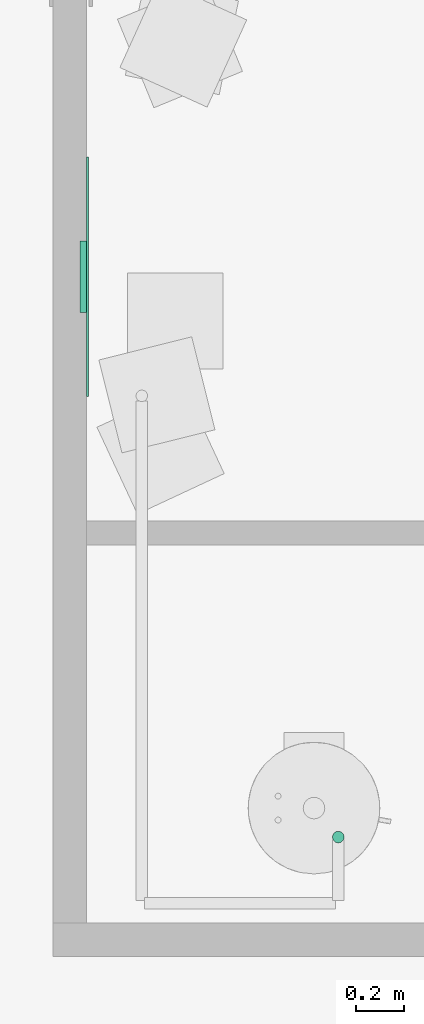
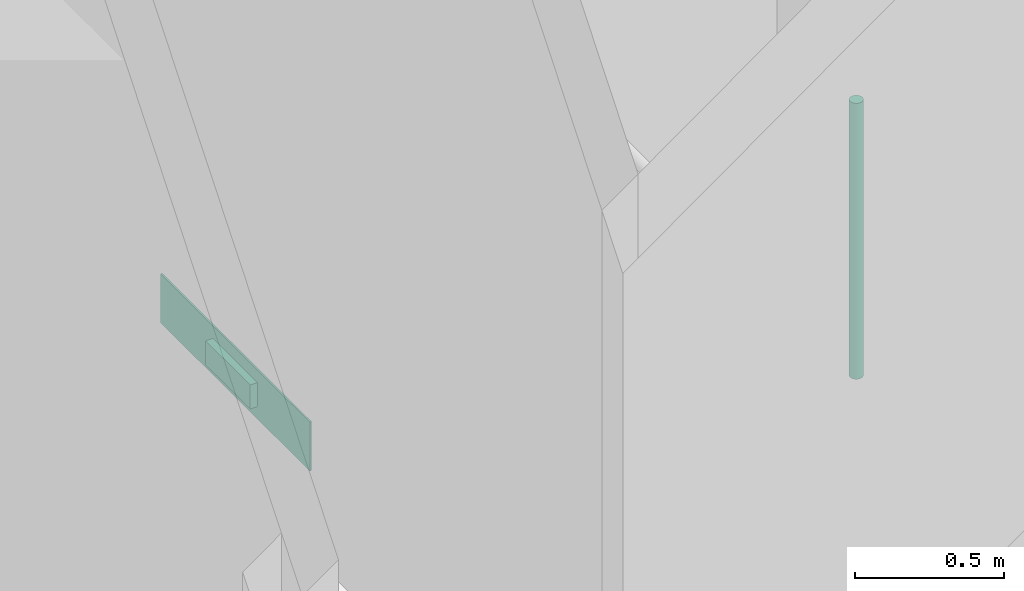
# One storey, part 24 of 69: 1 air terminal, 1 pipe segment.
"""IFC4 building model written with IfcOpenShell, lengths in centimetres."""

from ifc_helpers import new_model, entity, si_unit, converted_unit, derived_unit, direction, frame, origin, place, context, subcontext, project, spatial, arc, indexed_curve, outline, extrude, source, transform, mapped, material, constituent, constituent_set, type_object, type_shapes, element, save


model = new_model("IFC4")

# Units and contexts
model_context = context("Model", 3, precision=0.001, world=origin(), true_north=direction((6.123233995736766e-17, 1.0)))
body_context = subcontext(model_context, "Body", "Model", "MODEL_VIEW")
ifc_project = project(units=[si_unit("LENGTHUNIT", "METRE", prefix="CENTI"), si_unit("AREAUNIT", "SQUARE_METRE"), si_unit("VOLUMEUNIT", "CUBIC_METRE"), derived_unit("THERMALTRANSMITTANCEUNIT", [(si_unit("MASSUNIT", "GRAM", prefix="KILO"), 1), (si_unit("THERMODYNAMICTEMPERATUREUNIT", "KELVIN"), -1), (si_unit("TIMEUNIT", "SECOND"), -3)]), converted_unit("PLANEANGLEUNIT", "DEGREE", entity("IfcPlaneAngleMeasure", 0.017453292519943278), si_unit("PLANEANGLEUNIT", "RADIAN"), dimensions=[0, 0, 0, 0, 0, 0, 0]), derived_unit("MASSDENSITYUNIT", [(si_unit("MASSUNIT", "GRAM", prefix="KILO"), 1), (si_unit("LENGTHUNIT", "METRE"), -3)]), derived_unit("VAPORPERMEABILITYUNIT", [(si_unit("LENGTHUNIT", "METRE"), -1), (si_unit("TIMEUNIT", "SECOND"), 1)]), derived_unit("USERDEFINED", [(si_unit("MASSUNIT", "GRAM", prefix="KILO"), 1), (si_unit("TIMEUNIT", "SECOND"), -3), (si_unit("LENGTHUNIT", "METRE"), 3), (si_unit("ELECTRICCURRENTUNIT", "AMPERE"), -2)]), derived_unit("SPECIFICHEATCAPACITYUNIT", [(si_unit("THERMODYNAMICTEMPERATUREUNIT", "KELVIN"), -1), (si_unit("LENGTHUNIT", "METRE"), 2), (si_unit("TIMEUNIT", "SECOND"), -2)]), derived_unit("THERMALCONDUCTANCEUNIT", [(si_unit("MASSUNIT", "GRAM", prefix="KILO"), 1), (si_unit("THERMODYNAMICTEMPERATUREUNIT", "KELVIN"), -1), (si_unit("TIMEUNIT", "SECOND"), -3), (si_unit("LENGTHUNIT", "METRE"), 1)]), si_unit("PRESSUREUNIT", "PASCAL"), derived_unit("MODULUSOFELASTICITYUNIT", [(si_unit("MASSUNIT", "GRAM", prefix="KILO"), 1), (si_unit("LENGTHUNIT", "METRE"), -1), (si_unit("TIMEUNIT", "SECOND"), -2)]), derived_unit("THERMALEXPANSIONCOEFFICIENTUNIT", [(si_unit("THERMODYNAMICTEMPERATUREUNIT", "KELVIN"), -1)])], contexts=[model_context])

# Site, building, storey, space
site_placement = place(None, origin())
site = spatial("IfcSite", under=ifc_project, at=site_placement, Name="Default", CompositionType="ELEMENT")
building_placement = place(site_placement, origin())
building = spatial("IfcBuilding", under=site, at=building_placement, Name="IDS Escape Game Building", CompositionType="ELEMENT")
storey_placement = place(building_placement, origin())
storey = spatial("IfcBuildingStorey", under=building, at=storey_placement, Name="00_Ground Floor", CompositionType="ELEMENT", Elevation=0.0)
space_placement = place(storey_placement, origin())
space = spatial("IfcSpace", under=storey, at=space_placement, Name="19", CompositionType="ELEMENT", PredefinedType="NOTDEFINED")

# Air terminal
ifc_material_1 = material(Name="TB_LVC_referentievlak_00_gen_BERSnl", Category="BE Default")
ifc_constituent_1 = constituent(ifc_material_1, Name="TB_LVC_referentievlak_00_gen_BERSnl", Category="BE Default", fraction=0.00014157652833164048)
ifc_material_2 = material(Name="ARC_FME.h2_staal_00_gen_BERSnl", Category="h - metaal")
ifc_constituent_2 = constituent(ifc_material_2, Name="ARC_FME.h2_staal_00_gen_BERSnl", Category="h - metaal", fraction=0.9998584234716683)
ifc_constituent_set_1 = constituent_set(constituents=[ifc_constituent_1, ifc_constituent_2])
ifc_constituent_3 = constituent(ifc_material_1, Name="BE Referentievlak", Category="BE Default", fraction=0.00014157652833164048)
ifc_constituent_4 = constituent(ifc_material_2, Name="Terminals", Category="h - metaal", fraction=0.9998584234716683)
ifc_constituent_set_2 = constituent_set(constituents=[ifc_constituent_3, ifc_constituent_4])
air_terminal_type = type_object("IfcAirTerminalType", Name="TB_57_AIR_FB_aanzuigrooster - 1 rechthoekige aansluiting - calculated flow_gen_BERSnl:Air Terminal - Exhaust", PredefinedType="GRILLE", material=ifc_constituent_set_2)
shared_shape = source(origin(), body_context, "Body", "SweptSolid", [
    extrude(outline(indexed_curve([(-0.5, -2.0290176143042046e-15), (6.8507733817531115e-16, -0.5000000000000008), (0.5, 2.0290176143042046e-15), (-5.361679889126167e-16, 0.49999999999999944)], segments=[arc(1, 2, 3), arc(3, 4, 1)], self_intersect=False)), frame((0.0, 0.0, 0.0), z_axis=(1.7453292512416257e-05, 0.0, 1.0), x_axis=(0.0, 1.0, 0.0)), (0.0, 0.0, 1.0), 0.09999999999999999),
    extrude(outline(indexed_curve([(-14.900000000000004, -4.9), (14.900000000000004, -4.9), (14.900000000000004, 4.9), (-14.900000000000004, 4.9), (-14.900000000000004, -4.9)], self_intersect=False)), frame((-4.886921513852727e-05, 0.0, -2.7999999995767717)), (0.0, 0.0, 1.0), 2.7999999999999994),
    extrude(outline(indexed_curve([(-50.0, -10.0), (50.0, -10.0), (50.0, 10.0), (-50.0, 10.0), (-50.0, -10.0)], self_intersect=False)), frame((0.0, 0.0, 0.0), z_axis=(0.0, 0.0, 1.0), x_axis=(-1.0, 0.0, 0.0)), (0.0, 0.0, 1.0), 0.6999999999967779),
])
type_shapes(air_terminal_type, [shared_shape])
air_terminal_placement = place(space_placement, frame((2959.0, 1559.0, 24.0), z_axis=(1.0, 0.0, 0.0), x_axis=(0.0, 1.0, 0.0)))
element("IfcAirTerminal", 1, at=air_terminal_placement, inside=space, type_object=air_terminal_type, material=ifc_constituent_set_1, Name="TB_57_AIR_FB_aanzuigrooster - 1 rechthoekige aansluiting - calculated flow_gen_BERSnl:Air Terminal - Exhaust", ObjectType="TB_57_AIR_FB_aanzuigrooster - 1 rechthoekige aansluiting - calculated flow_gen_BERSnl:Air Terminal - Exhaust", PredefinedType="GRILLE", context=body_context, shape_type="MappedRepresentation", body=[
    mapped(shared_shape, transform((0.0, 0.0, 0.0), scale=1.0)),
])

# Pipe segment
pipe_segment_type = type_object("IfcPipeSegmentType", Name="Pipe Types:Piping Aluminum", PredefinedType="NOTDEFINED")
pipe_segment_placement = place(storey_placement, origin())
element("IfcPipeSegment", 2, at=pipe_segment_placement, inside=storey, type_object=pipe_segment_type, Name="Pipe Types:Piping Aluminum", ObjectType="Pipe Types:Piping Aluminum", PredefinedType="NOTDEFINED", context=body_context, shape_type="SweptSolid", body=[
    extrude(outline(indexed_curve([(2.412999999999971, 0.0), (1.7062486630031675, 1.7062486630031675), (0.0, 2.412999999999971), (-1.7062486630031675, 1.7062486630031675), (-2.412999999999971, 0.0), (-1.7062486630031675, -1.7062486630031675), (0.0, -2.412999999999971), (1.7062486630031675, -1.7062486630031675)], segments=[arc(1, 2, 3), arc(3, 4, 5), arc(5, 6, 7), arc(7, 8, 1)], self_intersect=False)), frame((3064.1500000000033, 1324.900000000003, 128.0), z_axis=(0.0, 0.0, 1.0), x_axis=(-1.0, 0.0, 0.0)), (0.0, 0.0, 1.0), 112.90000000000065),
])

save(model, "model.ifc")
